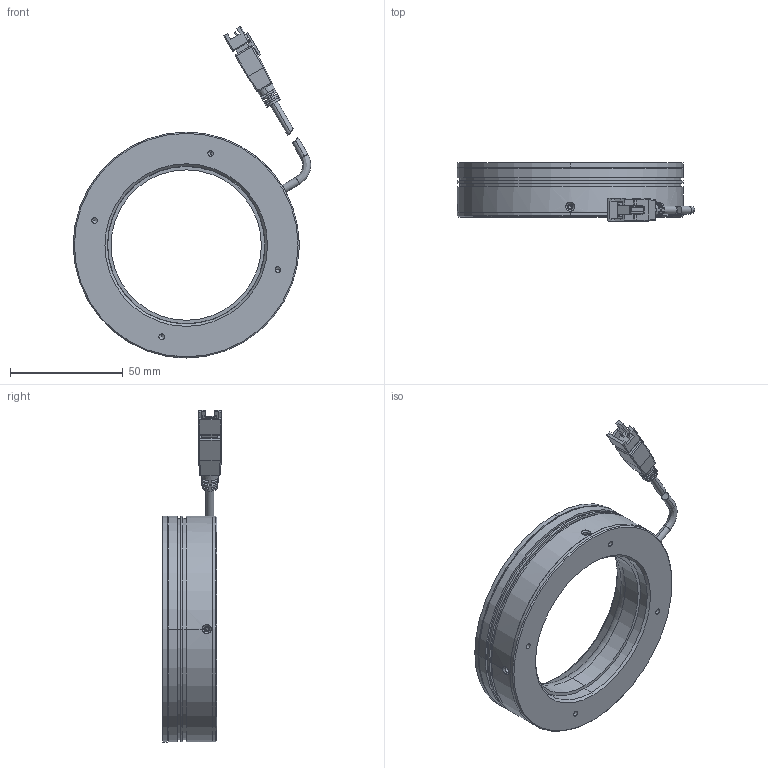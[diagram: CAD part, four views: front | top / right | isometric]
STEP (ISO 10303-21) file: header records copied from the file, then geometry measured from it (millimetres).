
FILE_DESCRIPTION (( 'STEP AP203' ), '1' );
FILE_NAME ('P-RL-100-30-DC-00.STEP', '2026-03-13T08:30:05', ( '' ), ( '' ), 'SwSTEP 2.0', 'SolidWorks 2022', '' );
FILE_SCHEMA (( 'CONFIG_CONTROL_DESIGN' ));
Length unit declared in the file: millimetre
Products named in the file (6): 10030灯珠-00; 光源线; P-RL-100-30-DC-002; DFP-RL-100-30-DC; P-RL-100-30-DC-00; P-RL-100-30-DC-001
Assembly tree (5 placements, depth 2):
  P-RL-100-30-DC-00
    P-RL-100-30-DC-001
    P-RL-100-30-DC-002
    DFP-RL-100-30-DC
    10030灯珠-00
    光源线
Bounding box: 105.11 x 26.01 x 147.02 mm (x, y, z)
Volume: 64956.8 mm3; surface area: 54827 mm2
Topology: 7 solids, 7 shells, 387 faces, 951 edges, 566 vertices
Faces by surface type: plane 137, cylinder 132, cone 74, torus 24, bspline 20
Entity records: 12882 total; most frequent: CARTESIAN_POINT 3312, DIRECTION 1908, ORIENTED_EDGE 1830, EDGE_CURVE 915, AXIS2_PLACEMENT_3D 718, VERTEX_POINT 566, VECTOR 472, LINE 472
